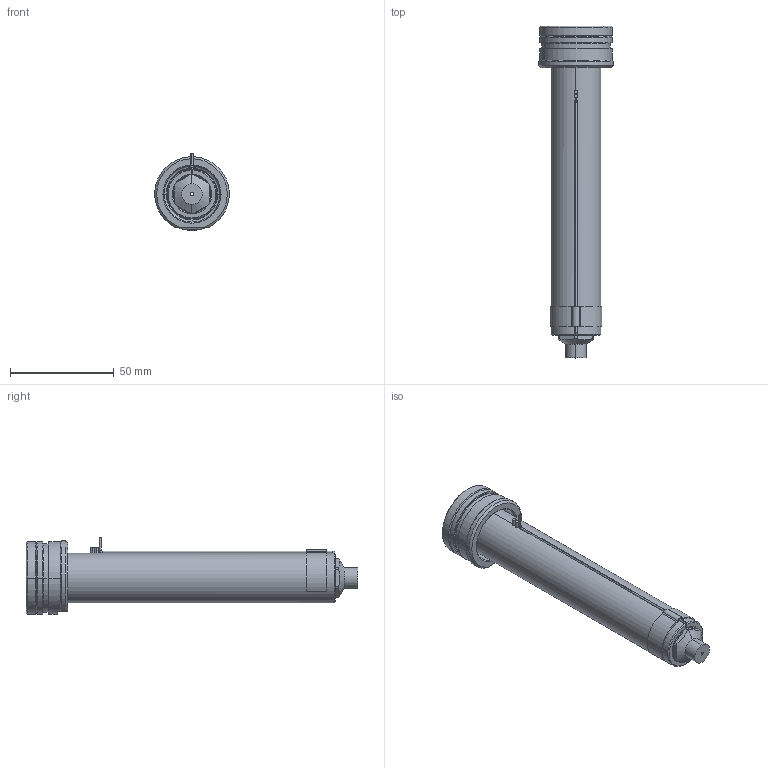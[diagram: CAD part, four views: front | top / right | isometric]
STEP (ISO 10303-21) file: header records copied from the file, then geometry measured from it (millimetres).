
FILE_DESCRIPTION((''),'2;1');
FILE_NAME('EO06_VG-FB_STD_140_SW','2024-02-19T13:24:59',('sundharh'),(''),'CREO PARAMETRIC BY PTC INC, 2023154','CREO PARAMETRIC BY PTC INC, 2023154','');
FILE_SCHEMA(('CONFIG_CONTROL_DESIGN'));
Length unit declared in the file: millimetre
Products named in the file (1): EO06_VG-FB_STD_140_SW
Bounding box: 35.93 x 160 x 37 mm (x, y, z)
Volume: 72909 mm3; surface area: 20771.1 mm2
Topology: 2 solids, 2 shells, 203 faces, 502 edges, 301 vertices
Faces by surface type: cylinder 76, plane 42, cone 38, torus 29, bspline 16, sphere 2
Entity records: 6989 total; most frequent: CARTESIAN_POINT 2113, DIRECTION 1090, ORIENTED_EDGE 992, EDGE_CURVE 496, AXIS2_PLACEMENT_3D 461, VERTEX_POINT 301, CIRCLE 274, EDGE_LOOP 217
